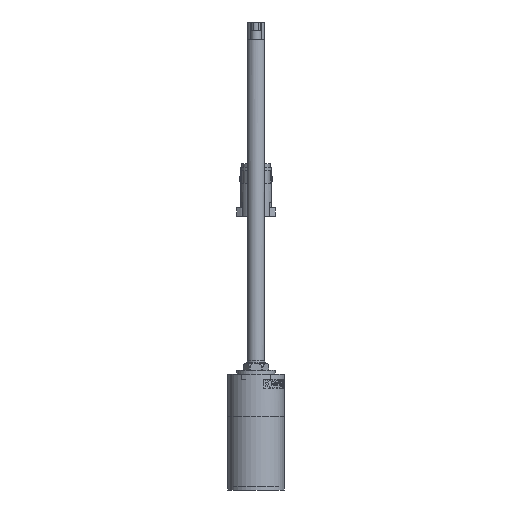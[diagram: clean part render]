
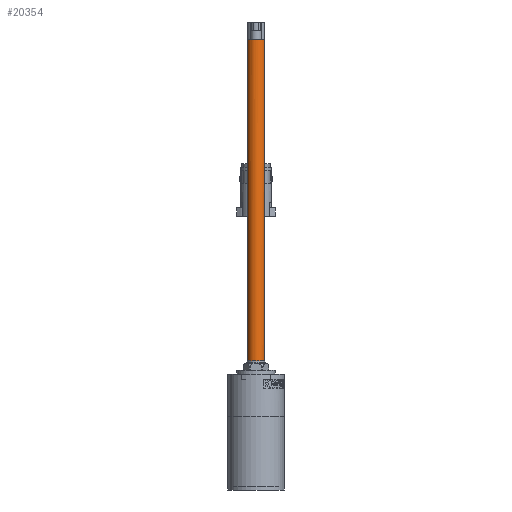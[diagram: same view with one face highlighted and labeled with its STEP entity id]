
A CAD part, left-side view. The second image highlights one B-rep face of the part: STEP entity #20354.
In plain terms, the highlighted cylindrical face has radius 5 mm (diameter 10 mm), a full revolution.
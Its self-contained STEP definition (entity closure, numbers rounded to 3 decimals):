
#11092=CYLINDRICAL_SURFACE('',#57625,5.);
#15524=CIRCLE('',#57624,5.);
#20354=ADVANCED_FACE('',(#23631,#23632),#11092,.T.);
#23631=FACE_BOUND('',#25819,.T.);
#23632=FACE_BOUND('',#25820,.T.);
#25819=EDGE_LOOP('',(#30963));
#25820=EDGE_LOOP('',(#30964));
#30963=ORIENTED_EDGE('',*,*,#46911,.T.);
#30964=ORIENTED_EDGE('',*,*,#46912,.T.);
#42291=VERTEX_POINT('',#83556);
#42292=VERTEX_POINT('',#83558);
#46911=EDGE_CURVE('',#42291,#42291,#52699,.T.);
#46912=EDGE_CURVE('',#42292,#42292,#15524,.T.);
#52699=B_SPLINE_CURVE_WITH_KNOTS('',3,(#83538,#83539,#83540,#83541,#83542,
#83543,#83544,#83545,#83546,#83547,#83548,#83549,#83550,#83551,#83552,#83553,
#83554,#83555),.UNSPECIFIED.,.T.,.F.,(2,2,2,2,2,2,2,2,2,2,2),(-0.125,0.,
0.125,0.25,0.375,0.5,0.625,0.75,0.875,1.,1.125),.UNSPECIFIED.);
#57624=AXIS2_PLACEMENT_3D('',#83557,#62164,#62165);
#57625=AXIS2_PLACEMENT_3D('',#83559,#62166,#62167);
#62164=DIRECTION('',(0.,0.,-1.));
#62165=DIRECTION('',(-1.,0.,0.));
#62166=DIRECTION('',(0.,0.,-1.));
#62167=DIRECTION('',(-1.,0.,0.));
#83538=CARTESIAN_POINT('',(-320.,1.31,73.5));
#83539=CARTESIAN_POINT('',(-320.,-1.308,73.5));
#83540=CARTESIAN_POINT('',(-319.461,-2.609,73.5));
#83541=CARTESIAN_POINT('',(-317.61,-4.461,73.5));
#83542=CARTESIAN_POINT('',(-316.31,-5.,73.5));
#83543=CARTESIAN_POINT('',(-313.692,-5.,73.5));
#83544=CARTESIAN_POINT('',(-312.391,-4.461,73.5));
#83545=CARTESIAN_POINT('',(-310.539,-2.61,73.5));
#83546=CARTESIAN_POINT('',(-310.,-1.31,73.5));
#83547=CARTESIAN_POINT('',(-310.,1.308,73.5));
#83548=CARTESIAN_POINT('',(-310.539,2.609,73.5));
#83549=CARTESIAN_POINT('',(-312.39,4.461,73.5));
#83550=CARTESIAN_POINT('',(-313.69,5.,73.5));
#83551=CARTESIAN_POINT('',(-316.308,5.,73.5));
#83552=CARTESIAN_POINT('',(-317.609,4.461,73.5));
#83553=CARTESIAN_POINT('',(-319.461,2.61,73.5));
#83554=CARTESIAN_POINT('',(-320.,1.31,73.5));
#83555=CARTESIAN_POINT('',(-320.,-1.308,73.5));
#83556=CARTESIAN_POINT('',(-320.,0.001,73.5));
#83557=CARTESIAN_POINT('',(-315.,0.,255.9));
#83558=CARTESIAN_POINT('',(-320.,0.,255.9));
#83559=CARTESIAN_POINT('',(-315.,0.,65.9));
